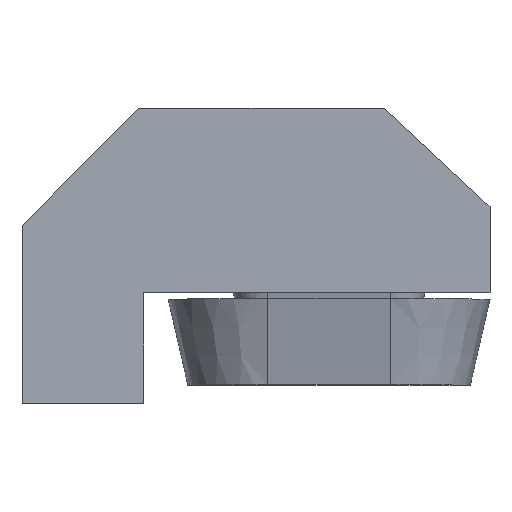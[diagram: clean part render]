
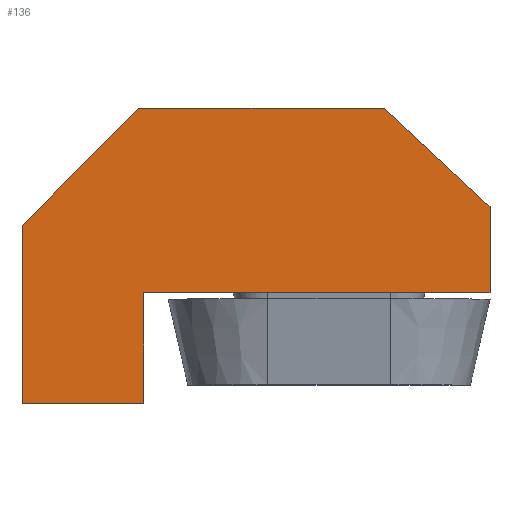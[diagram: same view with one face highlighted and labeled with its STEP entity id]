
A CAD part, top view. The second image highlights one B-rep face of the part: STEP entity #136.
In plain terms, the highlighted planar face has unit normal (0, 0, 1).
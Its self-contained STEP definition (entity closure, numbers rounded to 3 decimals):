
#136=ADVANCED_FACE('',(#223),#224,.T.);
#223=FACE_OUTER_BOUND('',#311,.T.);
#224=PLANE('',#312);
#311=EDGE_LOOP('',(#605,#606,#607,#608,#609,#610,#611,#612));
#312=AXIS2_PLACEMENT_3D('',#613,#614,#615);
#605=ORIENTED_EDGE('',*,*,#693,.F.);
#606=ORIENTED_EDGE('',*,*,#715,.F.);
#607=ORIENTED_EDGE('',*,*,#712,.F.);
#608=ORIENTED_EDGE('',*,*,#709,.F.);
#609=ORIENTED_EDGE('',*,*,#706,.F.);
#610=ORIENTED_EDGE('',*,*,#703,.F.);
#611=ORIENTED_EDGE('',*,*,#700,.F.);
#612=ORIENTED_EDGE('',*,*,#697,.F.);
#613=CARTESIAN_POINT('',(-80.162,128.358,101.0));
#614=DIRECTION('',(0.0,0.0,1.0));
#615=DIRECTION('',(1.0,0.0,0.0));
#693=EDGE_CURVE('',#827,#828,#829,.T.);
#697=EDGE_CURVE('',#828,#835,#836,.T.);
#700=EDGE_CURVE('',#835,#840,#841,.T.);
#703=EDGE_CURVE('',#840,#845,#846,.T.);
#706=EDGE_CURVE('',#845,#850,#851,.T.);
#709=EDGE_CURVE('',#850,#855,#856,.T.);
#712=EDGE_CURVE('',#855,#860,#861,.T.);
#715=EDGE_CURVE('',#860,#827,#865,.T.);
#827=VERTEX_POINT('',#1031);
#828=VERTEX_POINT('',#1032);
#829=LINE('',#1033,#1034);
#835=VERTEX_POINT('',#1043);
#836=LINE('',#1044,#1045);
#840=VERTEX_POINT('',#1051);
#841=LINE('',#1052,#1053);
#845=VERTEX_POINT('',#1059);
#846=LINE('',#1060,#1061);
#850=VERTEX_POINT('',#1067);
#851=LINE('',#1068,#1069);
#855=VERTEX_POINT('',#1075);
#856=LINE('',#1076,#1077);
#860=VERTEX_POINT('',#1083);
#861=LINE('',#1084,#1085);
#865=LINE('',#1091,#1092);
#1031=CARTESIAN_POINT('',(-250.0,145.0,101.0));
#1032=CARTESIAN_POINT('',(-155.0,240.0,101.0));
#1033=CARTESIAN_POINT('',(-250.0,145.0,101.0));
#1034=VECTOR('',#1185,1.0);
#1043=CARTESIAN_POINT('',(45.0,240.0,101.0));
#1044=CARTESIAN_POINT('',(-155.0,240.0,101.0));
#1045=VECTOR('',#1189,1.0);
#1051=CARTESIAN_POINT('',(131.0,160.0,101.0));
#1052=CARTESIAN_POINT('',(45.0,240.0,101.0));
#1053=VECTOR('',#1192,1.0);
#1059=CARTESIAN_POINT('',(131.0,90.0,101.0));
#1060=CARTESIAN_POINT('',(131.0,160.0,101.0));
#1061=VECTOR('',#1195,1.0);
#1067=CARTESIAN_POINT('',(-151.0,90.0,101.0));
#1068=CARTESIAN_POINT('',(131.0,90.0,101.0));
#1069=VECTOR('',#1198,1.0);
#1075=CARTESIAN_POINT('',(-151.0,0.0,101.0));
#1076=CARTESIAN_POINT('',(-151.0,90.0,101.0));
#1077=VECTOR('',#1201,1.0);
#1083=CARTESIAN_POINT('',(-250.0,0.0,101.0));
#1084=CARTESIAN_POINT('',(-151.0,0.0,101.0));
#1085=VECTOR('',#1204,1.0);
#1091=CARTESIAN_POINT('',(-250.0,0.0,101.0));
#1092=VECTOR('',#1207,1.0);
#1185=DIRECTION('',(0.707,0.707,0.0));
#1189=DIRECTION('',(1.0,0.0,0.0));
#1192=DIRECTION('',(0.732,-0.681,0.0));
#1195=DIRECTION('',(0.0,-1.0,0.0));
#1198=DIRECTION('',(-1.0,0.0,0.0));
#1201=DIRECTION('',(0.0,-1.0,0.0));
#1204=DIRECTION('',(-1.0,0.0,0.0));
#1207=DIRECTION('',(0.0,1.0,0.0));
